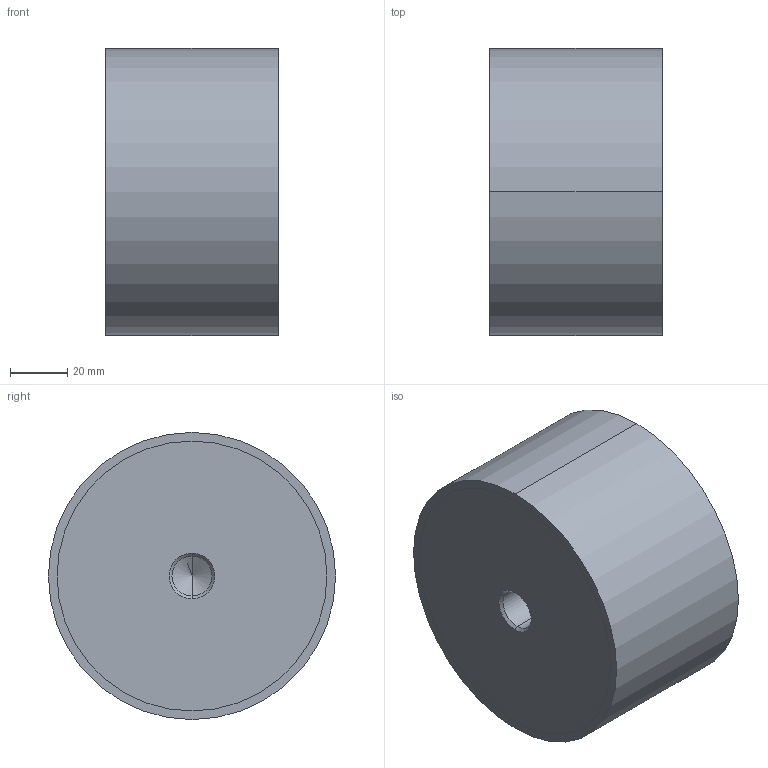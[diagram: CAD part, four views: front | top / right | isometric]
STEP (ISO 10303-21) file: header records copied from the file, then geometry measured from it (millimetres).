
FILE_DESCRIPTION (( 'STEP AP214' ), '1' );
FILE_NAME ('351-100-60-M16-EE-70.step', '2025-07-23T09:41:13', ( '' ), ( '' ), 'SwSTEP 2.0', 'SolidWorks 2022', '' );
FILE_SCHEMA (( 'AUTOMOTIVE_DESIGN' ));
Length unit declared in the file: millimetre
Products named in the file (1): 351-100-60-M16-EE-70
Bounding box: 60 x 100 x 100 mm (x, y, z)
Volume: 465272.3 mm3; surface area: 36097.6 mm2
Topology: 1 solids, 1 shells, 28 faces, 58 edges, 34 vertices
Faces by surface type: cylinder 14, cone 8, plane 6
Entity records: 844 total; most frequent: DIRECTION 144, CARTESIAN_POINT 117, ORIENTED_EDGE 108, AXIS2_PLACEMENT_3D 61, EDGE_CURVE 54, EDGE_LOOP 34, VERTEX_POINT 34, CIRCLE 32
